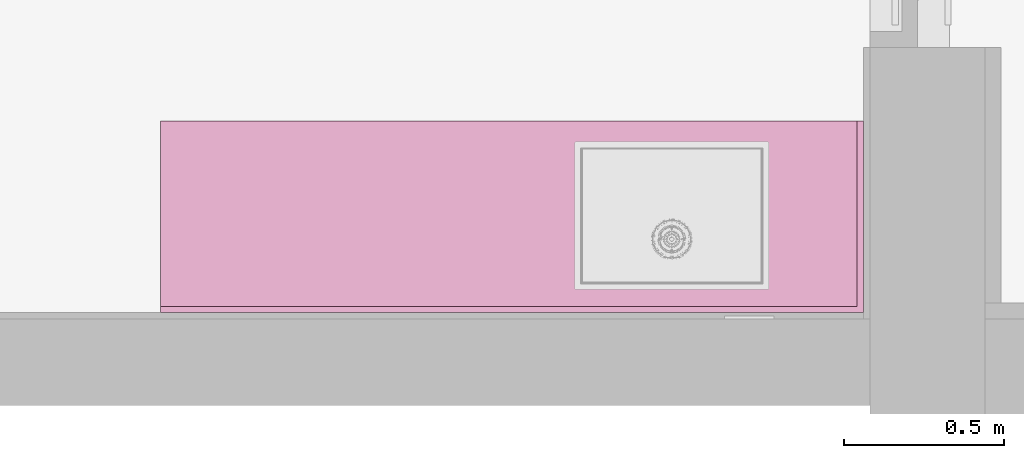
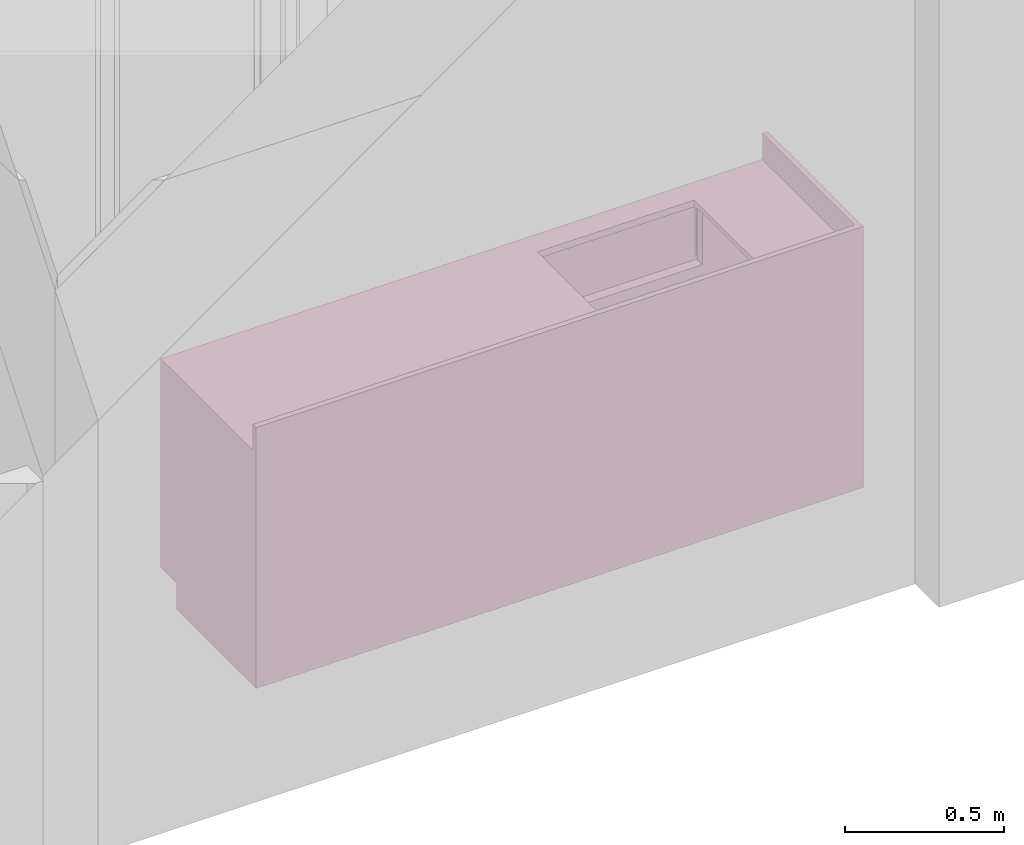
# One storey, part 72 of 75: 1 furnishing.
"""IFC2X3 building model written with IfcOpenShell, lengths in metres."""

from ifc_helpers import new_model, entity, si_unit, converted_unit, derived_unit, direction, frame, origin, place, context, subcontext, project, spatial, faceted_brep, source, transform, mapped, material, material_list, type_object, type_shapes, element, save


model = new_model("IFC2X3")

# Units and contexts
model_context = context("Model", 3, precision=1e-05, world=origin(), true_north=direction((6.12303176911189e-17, 1.0)))
body_context = subcontext(model_context, "Body", "Model", "MODEL_VIEW")
ifc_project = project(units=[si_unit("LENGTHUNIT", "METRE"), si_unit("AREAUNIT", "SQUARE_METRE"), si_unit("VOLUMEUNIT", "CUBIC_METRE"), converted_unit("PLANEANGLEUNIT", "DEGREE", entity("IfcRatioMeasure", 0.0174532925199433), si_unit("PLANEANGLEUNIT", "RADIAN"), dimensions=[0, 0, 0, 0, 0, 0, 0]), si_unit("MASSUNIT", "GRAM", prefix="KILO"), derived_unit("MASSDENSITYUNIT", [(si_unit("MASSUNIT", "GRAM", prefix="KILO"), 1), (si_unit("LENGTHUNIT", "METRE"), -3)]), derived_unit("MOMENTOFINERTIAUNIT", [(si_unit("LENGTHUNIT", "METRE"), 4)]), si_unit("TIMEUNIT", "SECOND"), si_unit("FREQUENCYUNIT", "HERTZ"), si_unit("THERMODYNAMICTEMPERATUREUNIT", "DEGREE_CELSIUS"), derived_unit("THERMALTRANSMITTANCEUNIT", [(si_unit("MASSUNIT", "GRAM", prefix="KILO"), 1), (si_unit("THERMODYNAMICTEMPERATUREUNIT", "KELVIN"), -1), (si_unit("TIMEUNIT", "SECOND"), -3)]), derived_unit("VOLUMETRICFLOWRATEUNIT", [(si_unit("LENGTHUNIT", "METRE"), 3), (si_unit("TIMEUNIT", "SECOND"), -1)]), si_unit("ELECTRICCURRENTUNIT", "AMPERE"), si_unit("ELECTRICVOLTAGEUNIT", "VOLT"), si_unit("POWERUNIT", "WATT"), si_unit("FORCEUNIT", "NEWTON", prefix="KILO"), si_unit("ILLUMINANCEUNIT", "LUX"), si_unit("LUMINOUSFLUXUNIT", "LUMEN"), si_unit("LUMINOUSINTENSITYUNIT", "CANDELA"), derived_unit("USERDEFINED", [(si_unit("MASSUNIT", "GRAM", prefix="KILO"), -1), (si_unit("LENGTHUNIT", "METRE"), -2), (si_unit("TIMEUNIT", "SECOND"), 3), (si_unit("LUMINOUSFLUXUNIT", "LUMEN"), 1)]), derived_unit("LINEARVELOCITYUNIT", [(si_unit("LENGTHUNIT", "METRE"), 1), (si_unit("TIMEUNIT", "SECOND"), -1)]), si_unit("PRESSUREUNIT", "PASCAL"), derived_unit("USERDEFINED", [(si_unit("LENGTHUNIT", "METRE"), -2), (si_unit("MASSUNIT", "GRAM", prefix="KILO"), 1), (si_unit("TIMEUNIT", "SECOND"), -2)]), derived_unit("LINEARFORCEUNIT", [(si_unit("MASSUNIT", "GRAM", prefix="KILO"), 1), (si_unit("LENGTHUNIT", "METRE"), 1), (si_unit("TIMEUNIT", "SECOND"), -2), (si_unit("LENGTHUNIT", "METRE"), -1)]), derived_unit("PLANARFORCEUNIT", [(si_unit("MASSUNIT", "GRAM", prefix="KILO"), 1), (si_unit("LENGTHUNIT", "METRE"), 1), (si_unit("TIMEUNIT", "SECOND"), -2), (si_unit("LENGTHUNIT", "METRE"), -2)])], contexts=[model_context])

# Site, building, storey
site_placement = place(None, origin())
site = spatial("IfcSite", under=ifc_project, at=site_placement, Name="Superficie", CompositionType="ELEMENT")
building_placement = place(site_placement, origin())
building = spatial("IfcBuilding", under=site, at=building_placement, Name="Telegestiones", CompositionType="ELEMENT")
storey_placement = place(building_placement, origin())
storey = spatial("IfcBuildingStorey", under=building, at=storey_placement, Name="Nivel 0_NPT", CompositionType="ELEMENT", Elevation=0.0)

# Furnishing
ifc_material_1 = material(Name="<Unnamed>")
ifc_material_2 = material(Name="Encimera de cuarzo, blanco")
ifc_material_list_1 = material_list([ifc_material_1, ifc_material_2])
ifc_material_list_2 = material_list([ifc_material_1, ifc_material_2])
furniture_type = type_object("IfcFurnitureType", Name="ARQ-MB-IN-Mesada cocina:ARQ-MB-IN-Mesada cocina", material=ifc_material_list_2)
shared_shape = source(origin(), body_context, "Body", "Brep", [
    faceted_brep([(0.0, 0.0, 0.1), (2.2, 0.0, 0.1), (2.2, 0.500000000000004, 0.1), (0.0, 0.500000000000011, 0.1), (0.0, 0.0, 0.0), (0.0, 0.500000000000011, 0.0), (2.2, 0.500000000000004, 0.0), (2.2, 0.0, 0.0)], [[[0, 1, 2, 3]], [[4, 5, 6, 7]], [[1, 0, 4, 7]], [[2, 1, 7, 6]], [[3, 2, 6, 5]], [[0, 3, 5, 4]]]),
    faceted_brep([(2.2, 0.0, 0.88), (0.0200000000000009, 0.0200000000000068, 0.88), (0.0, 0.0, 0.88), (2.18, 0.0199999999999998, 0.88), (2.18, 0.500000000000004, 0.88), (2.2, 0.600000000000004, 0.88), (1.88379420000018, 0.514302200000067, 0.88), (1.31620580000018, 0.514302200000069, 0.88), (0.0, 0.600000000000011, 0.88), (0.020000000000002, 0.500000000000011, 0.88), (1.31620580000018, 0.500000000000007, 0.88), (1.88379420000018, 0.500000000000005, 0.88), (2.2, 0.0, 0.1), (2.18, 0.0199999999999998, 0.1), (2.18, 0.500000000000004, 0.1), (0.0, 0.0, 0.1), (2.2, 0.600000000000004, 0.1), (0.0200000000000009, 0.0200000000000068, 0.1), (0.020000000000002, 0.500000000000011, 0.1), (0.0, 0.600000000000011, 0.1), (1.2952000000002, 0.500000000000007, 0.874599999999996), (1.31620580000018, 0.500000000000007, 0.874599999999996), (1.88379420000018, 0.500000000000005, 0.874599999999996), (1.90480000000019, 0.500000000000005, 0.874599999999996), (1.90480000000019, 0.500000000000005, 0.653435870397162), (1.2952000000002, 0.500000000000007, 0.653435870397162), (1.2952000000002, 0.528958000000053, 0.653435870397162), (1.90480000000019, 0.528958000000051, 0.653435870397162), (1.90458362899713, 0.530601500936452, 0.653435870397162), (1.90394926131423, 0.532133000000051, 0.653435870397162), (1.90294012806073, 0.533448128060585, 0.653435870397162), (1.90162500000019, 0.534457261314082, 0.653435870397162), (1.9000935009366, 0.535091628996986, 0.653435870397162), (1.89845000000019, 0.535308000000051, 0.653435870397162), (1.30155000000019, 0.535308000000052, 0.653435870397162), (1.29990649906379, 0.535091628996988, 0.653435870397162), (1.29837500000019, 0.534457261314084, 0.653435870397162), (1.29705987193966, 0.533448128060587, 0.653435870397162), (1.29605073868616, 0.532133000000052, 0.653435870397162), (1.29541637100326, 0.530601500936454, 0.653435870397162), (1.29990649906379, 0.535091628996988, 0.874599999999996), (1.30155000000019, 0.535308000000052, 0.874599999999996), (1.89845000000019, 0.535308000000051, 0.874599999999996), (1.9000935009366, 0.535091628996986, 0.874599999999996), (1.90162500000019, 0.534457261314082, 0.874599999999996), (1.90294012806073, 0.533448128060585, 0.874599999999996), (1.90394926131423, 0.532133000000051, 0.874599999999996), (1.90458362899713, 0.530601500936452, 0.874599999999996), (1.90480000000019, 0.528958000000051, 0.874599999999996), (1.88379420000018, 0.514302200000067, 0.874599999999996), (1.31620580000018, 0.514302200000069, 0.874599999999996), (1.2952000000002, 0.528958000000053, 0.874599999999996), (1.29541637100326, 0.530601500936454, 0.874599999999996), (1.29605073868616, 0.532133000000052, 0.874599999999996), (1.29705987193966, 0.533448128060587, 0.874599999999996), (1.29837500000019, 0.534457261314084, 0.874599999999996), (1.9048000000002, 0.528958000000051, 0.830605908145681), (1.9048000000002, 0.528958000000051, 0.797311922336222), (1.9048000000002, 0.528958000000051, 0.764017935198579), (1.9048000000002, 0.528958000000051, 0.730723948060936), (1.9048000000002, 0.528958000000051, 0.697429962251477), (1.9033292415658, 0.533021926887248, 0.686431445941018), (1.90294012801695, 0.533448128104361, 0.719427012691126), (1.8984500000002, 0.535308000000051, 0.697429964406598), (1.90251392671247, 0.533837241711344, 0.841604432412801), (1.90294012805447, 0.533448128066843, 0.808608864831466), (1.90280592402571, 0.533578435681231, 0.756902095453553), (1.8984500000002, 0.535308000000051, 0.830605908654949), (1.89845000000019, 0.535308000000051, 0.741424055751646), (1.89845000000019, 0.535308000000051, 0.786611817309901), (1.30155000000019, 0.535308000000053, 0.830605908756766), (1.30155000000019, 0.535308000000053, 0.797311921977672), (1.30155000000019, 0.535308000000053, 0.764017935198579), (1.30155000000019, 0.535308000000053, 0.730723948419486), (1.30155000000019, 0.535308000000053, 0.697429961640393), (1.29667075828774, 0.533021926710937, 0.841604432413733), (1.2952000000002, 0.528958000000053, 0.741424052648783), (1.29705987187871, 0.533448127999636, 0.719427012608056), (1.29692956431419, 0.533313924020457, 0.756902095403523), (1.29748607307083, 0.533837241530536, 0.686431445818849), (1.2952000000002, 0.528958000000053, 0.697429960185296), (1.29705987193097, 0.533448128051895, 0.808608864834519), (1.2952000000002, 0.528958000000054, 0.83060590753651), (1.2952000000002, 0.528958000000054, 0.786611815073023)], [[[0, 1, 2]], [[0, 3, 1]], [[4, 3, 0]], [[5, 4, 0]], [[6, 4, 5]], [[6, 5, 7]], [[8, 7, 5]], [[8, 9, 7]], [[9, 8, 2]], [[2, 1, 9]], [[7, 9, 10]], [[4, 6, 11]], [[12, 13, 14]], [[13, 12, 15]], [[14, 16, 12]], [[15, 17, 13]], [[17, 15, 18]], [[19, 18, 15]], [[16, 14, 19]], [[18, 19, 14]], [[0, 2, 15, 12]], [[5, 0, 12, 16]], [[8, 5, 16, 19]], [[2, 8, 19, 15]], [[9, 1, 17, 18]], [[20, 21, 10, 9, 18, 14, 4, 11, 22, 23, 24, 25]], [[3, 4, 14, 13]], [[1, 3, 13, 17]], [[26, 25, 24, 27, 28, 29, 30, 31, 32, 33, 34, 35, 36, 37, 38, 39]], [[40, 41, 42, 43, 44, 45, 46, 47, 48, 23, 22, 49, 50, 21, 20, 51, 52, 53, 54, 55]], [[23, 48, 56, 57, 58, 59, 60, 27, 24]], [[61, 62, 63]], [[47, 46, 64]], [[45, 44, 64]], [[31, 61, 32]], [[61, 30, 29]], [[56, 48, 47]], [[27, 60, 28]], [[65, 66, 57]], [[61, 63, 32]], [[29, 28, 61]], [[43, 42, 67]], [[63, 33, 32]], [[58, 57, 66, 59]], [[65, 56, 64]], [[68, 62, 66]], [[67, 65, 64]], [[61, 60, 62]], [[44, 43, 64]], [[57, 56, 65]], [[62, 59, 66]], [[67, 69, 65]], [[47, 64, 56]], [[66, 69, 68]], [[63, 62, 68]], [[69, 66, 65]], [[62, 60, 59]], [[28, 60, 61]], [[31, 30, 61]], [[43, 67, 64]], [[46, 45, 64]], [[41, 70, 71, 72, 73, 74, 34, 33, 63, 68, 69, 67, 42]], [[40, 55, 75]], [[76, 77, 78]], [[54, 53, 75]], [[79, 77, 80]], [[53, 52, 75]], [[70, 41, 40]], [[74, 35, 34]], [[71, 81, 78]], [[79, 39, 38]], [[80, 26, 39]], [[52, 51, 82]], [[39, 79, 80]], [[72, 71, 78, 73]], [[81, 70, 75]], [[82, 81, 75]], [[79, 74, 77]], [[79, 37, 36]], [[71, 70, 81]], [[77, 73, 78]], [[82, 83, 81]], [[70, 40, 75]], [[36, 35, 79]], [[78, 83, 76]], [[80, 77, 76]], [[83, 78, 81]], [[77, 74, 73]], [[35, 74, 79]], [[38, 37, 79]], [[52, 82, 75]], [[55, 54, 75]], [[25, 26, 80, 76, 83, 82, 51, 20]], [[22, 11, 6, 49]], [[49, 6, 7, 50]], [[21, 50, 7, 10]]]),
    faceted_brep([(0.0, 0.0, 0.9), (2.2, 0.0, 0.9), (2.2, 0.600000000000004, 0.9), (0.0, 0.600000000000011, 0.9), (1.88379420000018, 0.514302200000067, 0.9), (1.88379420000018, 0.0914938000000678, 0.9), (1.31620580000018, 0.0914938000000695, 0.9), (1.31620580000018, 0.514302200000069, 0.9), (0.0, 0.0, 0.88), (0.0, 0.600000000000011, 0.88), (2.2, 0.600000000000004, 0.88), (2.2, 0.0, 0.88), (1.88379420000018, 0.0914938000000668, 0.88), (1.88379420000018, 0.514302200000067, 0.88), (1.31620580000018, 0.514302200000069, 0.88), (1.31620580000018, 0.0914938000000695, 0.88)], [[[0, 1, 2, 3], [4, 5, 6, 7]], [[8, 9, 10, 11], [12, 13, 14, 15]], [[1, 0, 8, 11]], [[2, 1, 11, 10]], [[3, 2, 10, 9]], [[0, 3, 9, 8]], [[12, 5, 4, 13]], [[13, 4, 7, 14]], [[14, 7, 6, 15]], [[5, 12, 15, 6]]]),
    faceted_brep([(2.2, 0.0, 1.0), (2.2, 0.6, 1.0), (2.18, 0.6, 1.0), (2.18, 0.0199999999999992, 1.0), (0.0, 0.0200000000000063, 1.0), (0.0, 0.0, 1.0), (2.2, 0.0, 0.9), (0.0, 0.0, 0.9), (0.0, 0.0200000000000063, 0.9), (2.18, 0.0199999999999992, 0.9), (2.18, 0.6, 0.9), (2.2, 0.6, 0.9)], [[[0, 1, 2, 3, 4, 5]], [[6, 7, 8, 9, 10, 11]], [[1, 0, 6, 11]], [[2, 1, 11, 10]], [[3, 2, 10, 9]], [[4, 3, 9, 8]], [[5, 4, 8, 7]], [[0, 5, 7, 6]]]),
])
type_shapes(furniture_type, [shared_shape])
furnishing_placement = place(storey_placement, frame((-6.70518737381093, -4.06639277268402, 0.0)))
element("IfcFurnishingElement", 1, at=furnishing_placement, inside=storey, type_object=furniture_type, material=ifc_material_list_1, Name="ARQ-MB-IN-Mesada cocina:ARQ-MB-IN-Mesada cocina", ObjectType="ARQ-MB-IN-Mesada cocina:ARQ-MB-IN-Mesada cocina", context=body_context, shape_type="MappedRepresentation", body=[
    mapped(shared_shape, transform((0.0, 0.0, 0.0), scale=1.0)),
])

save(model, "model.ifc")
